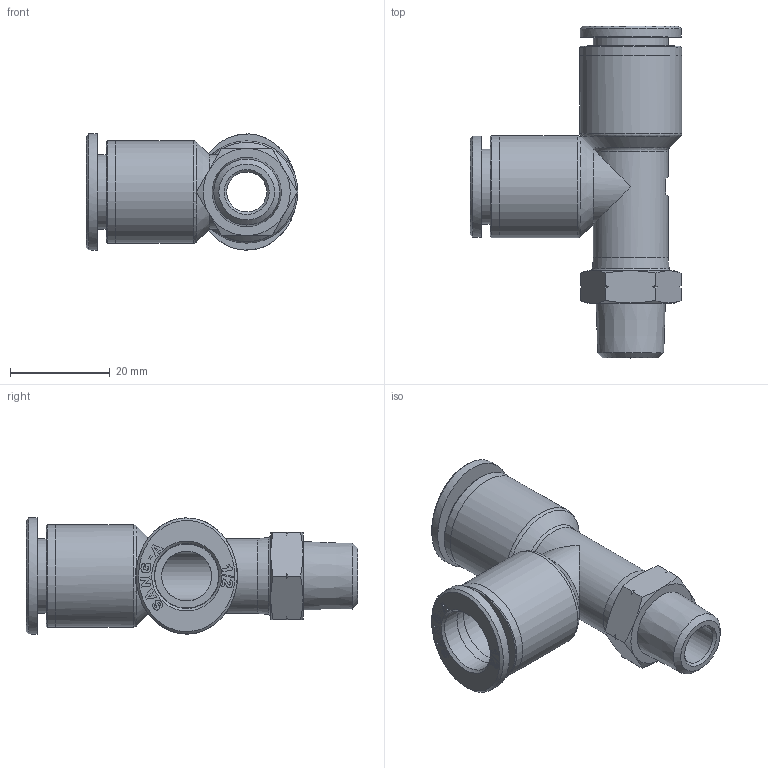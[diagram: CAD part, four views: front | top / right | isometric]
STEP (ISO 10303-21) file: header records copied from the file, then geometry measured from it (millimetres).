
FILE_DESCRIPTION((''),'2;1');
FILE_NAME('C:\Users\user0117\Desktop\김진일\홈페이지\1_2\Internet\GPST 1_2-N02U.stp','2019-09-11T15:42:45',('user0117'),(''),'Autodesk Inventor 2013','Autodesk Inventor 2013','');
FILE_SCHEMA(('AUTOMOTIVE_DESIGN { 1 0 10303 214 1 1 1 1 }'));
Length unit declared in the file: millimetre
Products named in the file (6): GPST 1_2-N02U; GPL BODY 1-2 N02(BRASS); GPST BODY 1-2(PLASTIC); G-COLLAR 1-2L; COLLAR G1-2L; SLEEVE G1-2
Assembly tree (6 placements, depth 3):
  GPST 1_2-N02U
    GPL BODY 1-2 N02(BRASS)
    GPST BODY 1-2(PLASTIC)
    G-COLLAR 1-2L  x2
      COLLAR G1-2L
      SLEEVE G1-2
Bounding box: 42.45 x 66.55 x 23.28 mm (x, y, z)
Volume: 14675.2 mm3; surface area: 11511.3 mm2
Topology: 6 solids, 6 shells, 671 faces, 1872 edges, 1243 vertices
Faces by surface type: plane 575, cone 38, cylinder 28, bspline 26, torus 4
Full cylindrical faces by diameter (mm): 8 x1, 9.5 x1, 10 x2, 13 x6, 14.1 x1, 15 x3, 20.5 x4
Entity records: 11844 total; most frequent: CARTESIAN_POINT 2544, ORIENTED_EDGE 1968, DIRECTION 1718, EDGE_CURVE 984, VECTOR 814, LINE 814, VERTEX_POINT 666, AXIS2_PLACEMENT_3D 452
